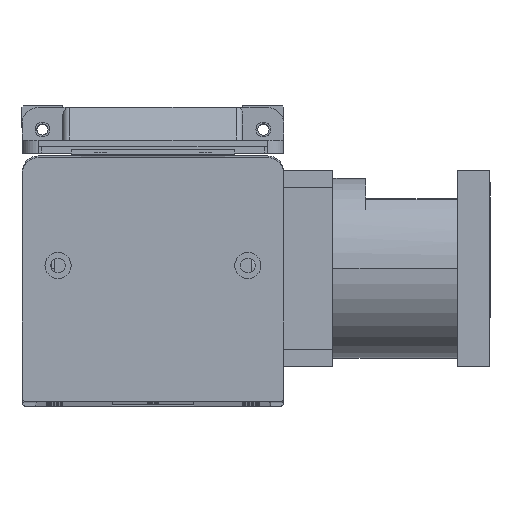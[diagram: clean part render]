
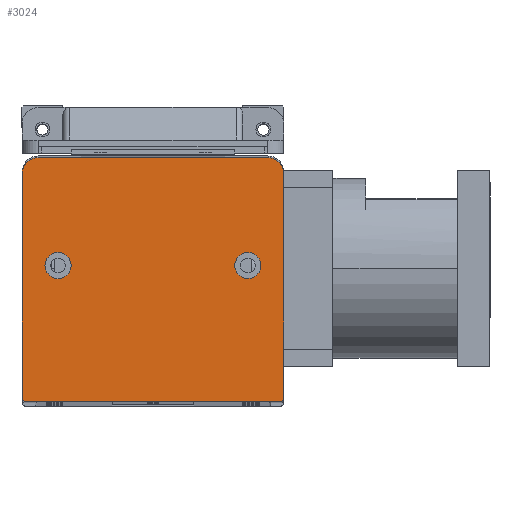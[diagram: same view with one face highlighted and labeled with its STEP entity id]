
A CAD part, top view. The second image highlights one B-rep face of the part: STEP entity #3024.
In plain terms, the highlighted planar face has unit normal (0, 0, 1).
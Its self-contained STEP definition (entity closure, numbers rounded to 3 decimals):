
#63 = EDGE_CURVE ( 'NONE', #5369, #244, #7447, .T. ) ;
#244 = VERTEX_POINT ( 'NONE', #5637 ) ;
#316 = AXIS2_PLACEMENT_3D ( 'NONE', #2267, #20245, #4866 ) ;
#982 = CARTESIAN_POINT ( 'NONE',  ( 11., 41.5, 10. ) ) ;
#1055 = EDGE_CURVE ( 'NONE', #15028, #31805, #4151, .T. ) ;
#1578 = EDGE_CURVE ( 'NONE', #25883, #17188, #24655, .T. ) ;
#1720 = AXIS2_PLACEMENT_3D ( 'NONE', #28772, #13332, #31379 ) ;
#1746 = DIRECTION ( 'NONE',  ( 1., 0., 0. ) ) ;
#2083 = CARTESIAN_POINT ( 'NONE',  ( 0., 0., 10. ) ) ;
#2137 = DIRECTION ( 'NONE',  ( 1., 0., 0. ) ) ;
#2267 = CARTESIAN_POINT ( 'NONE',  ( 69., 41.5, 10. ) ) ;
#2480 = DIRECTION ( 'NONE',  ( -1., 0., 0. ) ) ;
#2744 = FACE_BOUND ( 'NONE', #16707, .T. ) ;
#3024 = ADVANCED_FACE ( 'NONE', ( #2744, #30140, #16431 ), #28611, .T. ) ;
#3070 = ORIENTED_EDGE ( 'NONE', *, *, #1055, .T. ) ;
#3184 = VERTEX_POINT ( 'NONE', #6254 ) ;
#3215 = ORIENTED_EDGE ( 'NONE', *, *, #20425, .T. ) ;
#3499 = LINE ( 'NONE', #2083, #24036 ) ;
#3559 = DIRECTION ( 'NONE',  ( 1., 0., 0. ) ) ;
#3779 = EDGE_CURVE ( 'NONE', #244, #21787, #25302, .T. ) ;
#3910 = AXIS2_PLACEMENT_3D ( 'NONE', #6632, #24621, #9194 ) ;
#4151 = CIRCLE ( 'NONE', #1720, 1. ) ;
#4274 = DIRECTION ( 'NONE',  ( 0., 0., 1. ) ) ;
#4694 = DIRECTION ( 'NONE',  ( 1., 0., 0. ) ) ;
#4866 = DIRECTION ( 'NONE',  ( 1., 0., 0. ) ) ;
#5369 = VERTEX_POINT ( 'NONE', #24155 ) ;
#5637 = CARTESIAN_POINT ( 'NONE',  ( 0., 1., 10. ) ) ;
#5782 = CARTESIAN_POINT ( 'NONE',  ( 0., 74.5, 10. ) ) ;
#6071 = EDGE_CURVE ( 'NONE', #25988, #7154, #9050, .T. ) ;
#6249 = CARTESIAN_POINT ( 'NONE',  ( 1., 1., 10. ) ) ;
#6254 = CARTESIAN_POINT ( 'NONE',  ( 75., 74.5, 10. ) ) ;
#6632 = CARTESIAN_POINT ( 'NONE',  ( 11., 41.5, 10. ) ) ;
#7154 = VERTEX_POINT ( 'NONE', #18880 ) ;
#7267 = AXIS2_PLACEMENT_3D ( 'NONE', #982, #18947, #3559 ) ;
#7447 = LINE ( 'NONE', #5782, #12634 ) ;
#8048 = CARTESIAN_POINT ( 'NONE',  ( 0., 0., 10. ) ) ;
#8090 = EDGE_CURVE ( 'NONE', #17188, #25883, #12484, .T. ) ;
#8676 = ORIENTED_EDGE ( 'NONE', *, *, #12859, .T. ) ;
#8833 = DIRECTION ( 'NONE',  ( 1., 0., 0. ) ) ;
#9050 = CIRCLE ( 'NONE', #316, 4. ) ;
#9194 = DIRECTION ( 'NONE',  ( 1., 0., 0. ) ) ;
#9741 = CARTESIAN_POINT ( 'NONE',  ( 80., 0., 10. ) ) ;
#10338 = AXIS2_PLACEMENT_3D ( 'NONE', #8048, #13175, #31225 ) ;
#10738 = LINE ( 'NONE', #9741, #23634 ) ;
#11019 = CIRCLE ( 'NONE', #30090, 4. ) ;
#12165 = ORIENTED_EDGE ( 'NONE', *, *, #6071, .F. ) ;
#12484 = CIRCLE ( 'NONE', #7267, 4. ) ;
#12553 = ORIENTED_EDGE ( 'NONE', *, *, #20826, .T. ) ;
#12595 = VECTOR ( 'NONE', #2480, 1000. ) ;
#12634 = VECTOR ( 'NONE', #21185, 1000. ) ;
#12859 = EDGE_CURVE ( 'NONE', #3184, #13238, #13398, .T. ) ;
#13175 = DIRECTION ( 'NONE',  ( 0., 0., 1. ) ) ;
#13238 = VERTEX_POINT ( 'NONE', #19564 ) ;
#13332 = DIRECTION ( 'NONE',  ( 0., 0., 1. ) ) ;
#13398 = LINE ( 'NONE', #30732, #12595 ) ;
#13964 = ORIENTED_EDGE ( 'NONE', *, *, #27665, .T. ) ;
#15028 = VERTEX_POINT ( 'NONE', #28351 ) ;
#16198 = CARTESIAN_POINT ( 'NONE',  ( 1., 0., 10. ) ) ;
#16431 = FACE_OUTER_BOUND ( 'NONE', #26525, .T. ) ;
#16604 = ORIENTED_EDGE ( 'NONE', *, *, #29000, .F. ) ;
#16707 = EDGE_LOOP ( 'NONE', ( #12165, #16604 ) ) ;
#17090 = EDGE_LOOP ( 'NONE', ( #19896, #29305 ) ) ;
#17145 = DIRECTION ( 'NONE',  ( 0., 0., 1. ) ) ;
#17188 = VERTEX_POINT ( 'NONE', #26220 ) ;
#17552 = DIRECTION ( 'NONE',  ( 0., 0., 1. ) ) ;
#18880 = CARTESIAN_POINT ( 'NONE',  ( 65., 41.5, 10. ) ) ;
#18947 = DIRECTION ( 'NONE',  ( 0., 0., 1. ) ) ;
#19178 = ORIENTED_EDGE ( 'NONE', *, *, #27036, .T. ) ;
#19564 = CARTESIAN_POINT ( 'NONE',  ( 5., 74.5, 10. ) ) ;
#19648 = CIRCLE ( 'NONE', #23875, 5. ) ;
#19649 = CARTESIAN_POINT ( 'NONE',  ( 5., 69.5, 10. ) ) ;
#19896 = ORIENTED_EDGE ( 'NONE', *, *, #1578, .F. ) ;
#20245 = DIRECTION ( 'NONE',  ( 0., 0., 1. ) ) ;
#20425 = EDGE_CURVE ( 'NONE', #21787, #15028, #3499, .T. ) ;
#20448 = AXIS2_PLACEMENT_3D ( 'NONE', #19649, #4274, #22239 ) ;
#20826 = EDGE_CURVE ( 'NONE', #13238, #5369, #32848, .T. ) ;
#21185 = DIRECTION ( 'NONE',  ( 0., -1., 0. ) ) ;
#21787 = VERTEX_POINT ( 'NONE', #16198 ) ;
#21915 = CARTESIAN_POINT ( 'NONE',  ( 15., 41.5, 10. ) ) ;
#22239 = DIRECTION ( 'NONE',  ( 1., 0., 0. ) ) ;
#22477 = CARTESIAN_POINT ( 'NONE',  ( 80., 69.5, 10. ) ) ;
#22695 = DIRECTION ( 'NONE',  ( 0., 1., 0. ) ) ;
#23634 = VECTOR ( 'NONE', #22695, 1000. ) ;
#23875 = AXIS2_PLACEMENT_3D ( 'NONE', #32995, #17552, #2137 ) ;
#24036 = VECTOR ( 'NONE', #4694, 1000. ) ;
#24155 = CARTESIAN_POINT ( 'NONE',  ( 0., 69.5, 10. ) ) ;
#24228 = DIRECTION ( 'NONE',  ( 0., 0., 1. ) ) ;
#24552 = ORIENTED_EDGE ( 'NONE', *, *, #63, .T. ) ;
#24621 = DIRECTION ( 'NONE',  ( 0., 0., 1. ) ) ;
#24655 = CIRCLE ( 'NONE', #3910, 4. ) ;
#24700 = ORIENTED_EDGE ( 'NONE', *, *, #3779, .T. ) ;
#25302 = CIRCLE ( 'NONE', #30856, 1. ) ;
#25883 = VERTEX_POINT ( 'NONE', #21915 ) ;
#25988 = VERTEX_POINT ( 'NONE', #33168 ) ;
#26220 = CARTESIAN_POINT ( 'NONE',  ( 7., 41.5, 10. ) ) ;
#26525 = EDGE_LOOP ( 'NONE', ( #13964, #19178, #8676, #12553, #24552, #24700, #3215, #3070 ) ) ;
#27036 = EDGE_CURVE ( 'NONE', #27641, #3184, #19648, .T. ) ;
#27096 = CARTESIAN_POINT ( 'NONE',  ( 80., 1., 10. ) ) ;
#27641 = VERTEX_POINT ( 'NONE', #22477 ) ;
#27665 = EDGE_CURVE ( 'NONE', #31805, #27641, #10738, .T. ) ;
#28351 = CARTESIAN_POINT ( 'NONE',  ( 79., 0., 10. ) ) ;
#28611 = PLANE ( 'NONE',  #10338 ) ;
#28772 = CARTESIAN_POINT ( 'NONE',  ( 79., 1., 10. ) ) ;
#29000 = EDGE_CURVE ( 'NONE', #7154, #25988, #11019, .T. ) ;
#29305 = ORIENTED_EDGE ( 'NONE', *, *, #8090, .F. ) ;
#30090 = AXIS2_PLACEMENT_3D ( 'NONE', #32579, #17145, #1746 ) ;
#30140 = FACE_BOUND ( 'NONE', #17090, .T. ) ;
#30732 = CARTESIAN_POINT ( 'NONE',  ( 80., 74.5, 10. ) ) ;
#30856 = AXIS2_PLACEMENT_3D ( 'NONE', #6249, #24228, #8833 ) ;
#31225 = DIRECTION ( 'NONE',  ( 1., 0., 0. ) ) ;
#31379 = DIRECTION ( 'NONE',  ( 1., 0., 0. ) ) ;
#31805 = VERTEX_POINT ( 'NONE', #27096 ) ;
#32579 = CARTESIAN_POINT ( 'NONE',  ( 69., 41.5, 10. ) ) ;
#32848 = CIRCLE ( 'NONE', #20448, 5. ) ;
#32995 = CARTESIAN_POINT ( 'NONE',  ( 75., 69.5, 10. ) ) ;
#33168 = CARTESIAN_POINT ( 'NONE',  ( 73., 41.5, 10. ) ) ;
